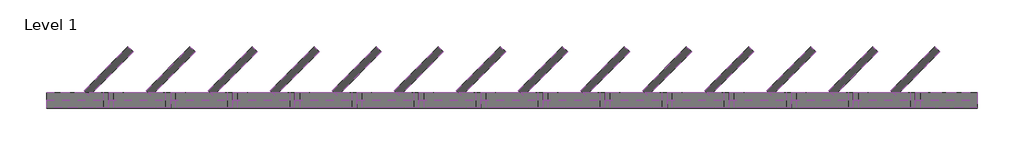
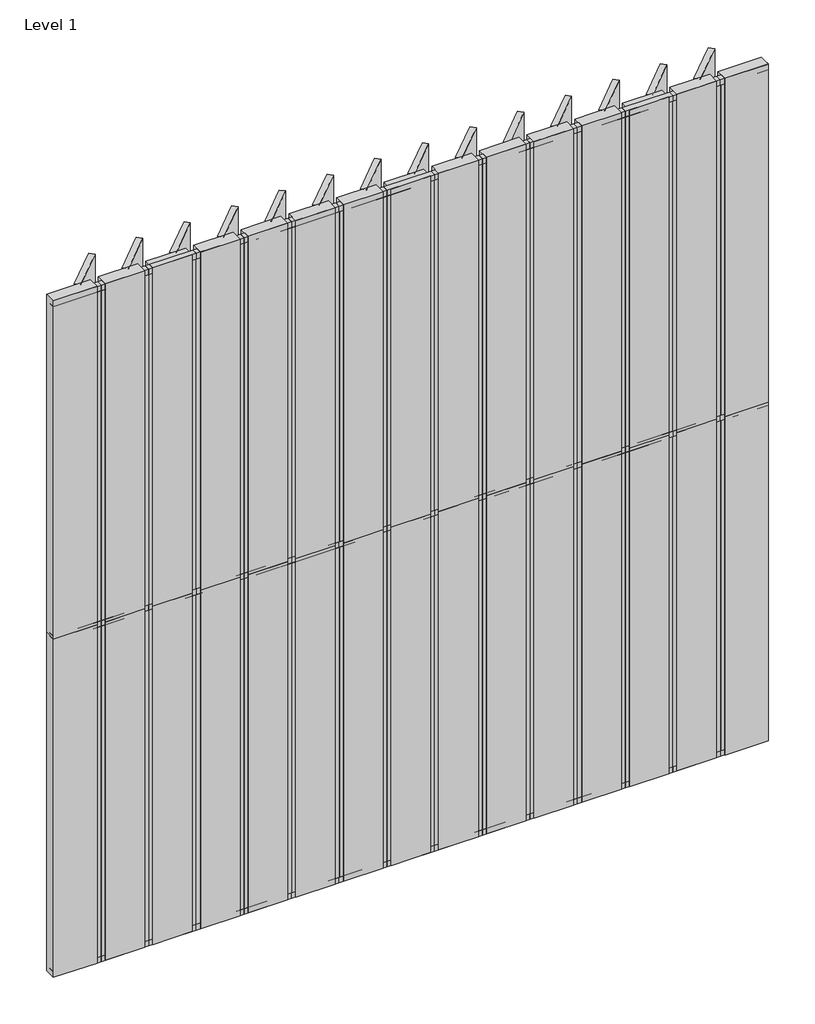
# One storey: 73 members, 60 plates.
"""IFC4 building model written with IfcOpenShell, lengths in millimetres."""

from ifc_helpers import new_model, si_unit, origin, place, context, project, spatial, transform, mapped, element, save
from components import rectangular_mullion_57607088, rectangular_mullion_05cc9e47, rectangular_mullion_4a4034a1, rectangular_mullion_3c6e38bc, empty_system_panel_empty_f4fe8983, empty_system_panel_empty_729ff3de, empty_system_panel_empty_361e841d

model = new_model("IFC4")

# Units and contexts
model_context = context("Model", 3, world=origin())
ifc_project = project(units=[si_unit("LENGTHUNIT", "METRE", prefix="MILLI")], contexts=[model_context])

# Site, building, storey
site = spatial("IfcSite", under=ifc_project)
building = spatial("IfcBuilding", under=site)
storey = spatial("IfcBuildingStorey", under=building, Name="Level 1", Elevation=0.0)

# Members
placement = place(None, origin())
rectangular_mullion_shape = rectangular_mullion_57607088(model_context)
element("IfcMember", 1, ObjectType="Rectangular Mullion : RSen_21_CWM_blade - cubic 400 - 45°_gen_duco projects", at=placement, inside=storey, context=model_context, shape_type="MappedRepresentation", body=[
    mapped(rectangular_mullion_shape, transform((5600.0, 3000.0, 0.0), x_axis=(-1.0, 0.0, 0.0), y_axis=(0.0, 1.0, 0.0), z_axis=(0.0, 0.0, -1.0))),
])
element("IfcMember", 2, ObjectType="Rectangular Mullion : RSen_21_CWM_blade - cubic 400 - 45°_gen_duco projects", at=placement, inside=storey, context=model_context, shape_type="MappedRepresentation", body=[
    mapped(rectangular_mullion_shape, transform((5200.0, 3000.0, 0.0), x_axis=(-1.0, 0.0, 0.0), y_axis=(0.0, 1.0, 0.0), z_axis=(0.0, 0.0, -1.0))),
])
element("IfcMember", 3, ObjectType="Rectangular Mullion : RSen_21_CWM_blade - cubic 400 - 45°_gen_duco projects", at=placement, inside=storey, context=model_context, shape_type="MappedRepresentation", body=[
    mapped(rectangular_mullion_shape, transform((4800.0, 3000.0, 0.0), x_axis=(-1.0, 0.0, 0.0), y_axis=(0.0, 1.0, 0.0), z_axis=(0.0, 0.0, -1.0))),
])
element("IfcMember", 4, ObjectType="Rectangular Mullion : RSen_21_CWM_blade - cubic 400 - 45°_gen_duco projects", at=placement, inside=storey, context=model_context, shape_type="MappedRepresentation", body=[
    mapped(rectangular_mullion_shape, transform((4400.0, 3000.0, 0.0), x_axis=(-1.0, 0.0, 0.0), y_axis=(0.0, 1.0, 0.0), z_axis=(0.0, 0.0, -1.0))),
])
element("IfcMember", 5, ObjectType="Rectangular Mullion : RSen_21_CWM_blade - cubic 400 - 45°_gen_duco projects", at=placement, inside=storey, context=model_context, shape_type="MappedRepresentation", body=[
    mapped(rectangular_mullion_shape, transform((4000.0, 3000.0, 0.0), x_axis=(-1.0, 0.0, 0.0), y_axis=(0.0, 1.0, 0.0), z_axis=(0.0, 0.0, -1.0))),
])
element("IfcMember", 6, ObjectType="Rectangular Mullion : RSen_21_CWM_blade - cubic 400 - 45°_gen_duco projects", at=placement, inside=storey, context=model_context, shape_type="MappedRepresentation", body=[
    mapped(rectangular_mullion_shape, transform((3600.0, 3000.0, 0.0), x_axis=(-1.0, 0.0, 0.0), y_axis=(0.0, 1.0, 0.0), z_axis=(0.0, 0.0, -1.0))),
])
element("IfcMember", 7, ObjectType="Rectangular Mullion : RSen_21_CWM_blade - cubic 400 - 45°_gen_duco projects", at=placement, inside=storey, context=model_context, shape_type="MappedRepresentation", body=[
    mapped(rectangular_mullion_shape, transform((3200.0, 3000.0, 0.0), x_axis=(-1.0, 0.0, 0.0), y_axis=(0.0, 1.0, 0.0), z_axis=(0.0, 0.0, -1.0))),
])
element("IfcMember", 8, ObjectType="Rectangular Mullion : RSen_21_CWM_blade - cubic 400 - 45°_gen_duco projects", at=placement, inside=storey, context=model_context, shape_type="MappedRepresentation", body=[
    mapped(rectangular_mullion_shape, transform((2800.0, 3000.0, 0.0), x_axis=(-1.0, 0.0, 0.0), y_axis=(0.0, 1.0, 0.0), z_axis=(0.0, 0.0, -1.0))),
])
element("IfcMember", 9, ObjectType="Rectangular Mullion : RSen_21_CWM_blade - cubic 400 - 45°_gen_duco projects", at=placement, inside=storey, context=model_context, shape_type="MappedRepresentation", body=[
    mapped(rectangular_mullion_shape, transform((2400.0, 3000.0, 0.0), x_axis=(-1.0, 0.0, 0.0), y_axis=(0.0, 1.0, 0.0), z_axis=(0.0, 0.0, -1.0))),
])
element("IfcMember", 10, ObjectType="Rectangular Mullion : RSen_21_CWM_blade - cubic 400 - 45°_gen_duco projects", at=placement, inside=storey, context=model_context, shape_type="MappedRepresentation", body=[
    mapped(rectangular_mullion_shape, transform((2000.0, 3000.0, 0.0), x_axis=(-1.0, 0.0, 0.0), y_axis=(0.0, 1.0, 0.0), z_axis=(0.0, 0.0, -1.0))),
])
element("IfcMember", 11, ObjectType="Rectangular Mullion : RSen_21_CWM_blade - cubic 400 - 45°_gen_duco projects", at=placement, inside=storey, context=model_context, shape_type="MappedRepresentation", body=[
    mapped(rectangular_mullion_shape, transform((1600.0, 3000.0, 0.0), x_axis=(-1.0, 0.0, 0.0), y_axis=(0.0, 1.0, 0.0), z_axis=(0.0, 0.0, -1.0))),
])
element("IfcMember", 12, ObjectType="Rectangular Mullion : RSen_21_CWM_blade - cubic 400 - 45°_gen_duco projects", at=placement, inside=storey, context=model_context, shape_type="MappedRepresentation", body=[
    mapped(rectangular_mullion_shape, transform((1200.0, 3000.0, 0.0), x_axis=(-1.0, 0.0, 0.0), y_axis=(0.0, 1.0, 0.0), z_axis=(0.0, 0.0, -1.0))),
])
element("IfcMember", 13, ObjectType="Rectangular Mullion : RSen_21_CWM_blade - cubic 400 - 45°_gen_duco projects", at=placement, inside=storey, context=model_context, shape_type="MappedRepresentation", body=[
    mapped(rectangular_mullion_shape, transform((800.0, 3000.0, 0.0), x_axis=(-1.0, 0.0, 0.0), y_axis=(0.0, 1.0, 0.0), z_axis=(0.0, 0.0, -1.0))),
])
element("IfcMember", 14, ObjectType="Rectangular Mullion : RSen_21_CWM_blade - cubic 400 - 45°_gen_duco projects", at=placement, inside=storey, context=model_context, shape_type="MappedRepresentation", body=[
    mapped(rectangular_mullion_shape, transform((400.0, 3000.0, 0.0), x_axis=(-1.0, 0.0, 0.0), y_axis=(0.0, 1.0, 0.0), z_axis=(0.0, 0.0, -1.0))),
])
element("IfcMember", 15, ObjectType="Rectangular Mullion : RSen_21_CWM_blade - cubic 400 - 45°_gen_duco projects", at=placement, inside=storey, context=model_context, shape_type="MappedRepresentation", body=[
    mapped(rectangular_mullion_shape, transform((5600.0, 3000.0, 3000.0), x_axis=(-1.0, 0.0, 0.0), y_axis=(0.0, 1.0, 0.0), z_axis=(0.0, 0.0, -1.0))),
])
element("IfcMember", 16, ObjectType="Rectangular Mullion : RSen_21_CWM_blade - cubic 400 - 45°_gen_duco projects", at=placement, inside=storey, context=model_context, shape_type="MappedRepresentation", body=[
    mapped(rectangular_mullion_shape, transform((5200.0, 3000.0, 3000.0), x_axis=(-1.0, 0.0, 0.0), y_axis=(0.0, 1.0, 0.0), z_axis=(0.0, 0.0, -1.0))),
])
element("IfcMember", 17, ObjectType="Rectangular Mullion : RSen_21_CWM_blade - cubic 400 - 45°_gen_duco projects", at=placement, inside=storey, context=model_context, shape_type="MappedRepresentation", body=[
    mapped(rectangular_mullion_shape, transform((4800.0, 3000.0, 3000.0), x_axis=(-1.0, 0.0, 0.0), y_axis=(0.0, 1.0, 0.0), z_axis=(0.0, 0.0, -1.0))),
])
element("IfcMember", 18, ObjectType="Rectangular Mullion : RSen_21_CWM_blade - cubic 400 - 45°_gen_duco projects", at=placement, inside=storey, context=model_context, shape_type="MappedRepresentation", body=[
    mapped(rectangular_mullion_shape, transform((4400.0, 3000.0, 3000.0), x_axis=(-1.0, 0.0, 0.0), y_axis=(0.0, 1.0, 0.0), z_axis=(0.0, 0.0, -1.0))),
])
element("IfcMember", 19, ObjectType="Rectangular Mullion : RSen_21_CWM_blade - cubic 400 - 45°_gen_duco projects", at=placement, inside=storey, context=model_context, shape_type="MappedRepresentation", body=[
    mapped(rectangular_mullion_shape, transform((4000.0, 3000.0, 3000.0), x_axis=(-1.0, 0.0, 0.0), y_axis=(0.0, 1.0, 0.0), z_axis=(0.0, 0.0, -1.0))),
])
element("IfcMember", 20, ObjectType="Rectangular Mullion : RSen_21_CWM_blade - cubic 400 - 45°_gen_duco projects", at=placement, inside=storey, context=model_context, shape_type="MappedRepresentation", body=[
    mapped(rectangular_mullion_shape, transform((3600.0, 3000.0, 3000.0), x_axis=(-1.0, 0.0, 0.0), y_axis=(0.0, 1.0, 0.0), z_axis=(0.0, 0.0, -1.0))),
])
element("IfcMember", 21, ObjectType="Rectangular Mullion : RSen_21_CWM_blade - cubic 400 - 45°_gen_duco projects", at=placement, inside=storey, context=model_context, shape_type="MappedRepresentation", body=[
    mapped(rectangular_mullion_shape, transform((3200.0, 3000.0, 3000.0), x_axis=(-1.0, 0.0, 0.0), y_axis=(0.0, 1.0, 0.0), z_axis=(0.0, 0.0, -1.0))),
])
element("IfcMember", 22, ObjectType="Rectangular Mullion : RSen_21_CWM_blade - cubic 400 - 45°_gen_duco projects", at=placement, inside=storey, context=model_context, shape_type="MappedRepresentation", body=[
    mapped(rectangular_mullion_shape, transform((2800.0, 3000.0, 3000.0), x_axis=(-1.0, 0.0, 0.0), y_axis=(0.0, 1.0, 0.0), z_axis=(0.0, 0.0, -1.0))),
])
element("IfcMember", 23, ObjectType="Rectangular Mullion : RSen_21_CWM_blade - cubic 400 - 45°_gen_duco projects", at=placement, inside=storey, context=model_context, shape_type="MappedRepresentation", body=[
    mapped(rectangular_mullion_shape, transform((2400.0, 3000.0, 3000.0), x_axis=(-1.0, 0.0, 0.0), y_axis=(0.0, 1.0, 0.0), z_axis=(0.0, 0.0, -1.0))),
])
element("IfcMember", 24, ObjectType="Rectangular Mullion : RSen_21_CWM_blade - cubic 400 - 45°_gen_duco projects", at=placement, inside=storey, context=model_context, shape_type="MappedRepresentation", body=[
    mapped(rectangular_mullion_shape, transform((2000.0, 3000.0, 3000.0), x_axis=(-1.0, 0.0, 0.0), y_axis=(0.0, 1.0, 0.0), z_axis=(0.0, 0.0, -1.0))),
])
element("IfcMember", 25, ObjectType="Rectangular Mullion : RSen_21_CWM_blade - cubic 400 - 45°_gen_duco projects", at=placement, inside=storey, context=model_context, shape_type="MappedRepresentation", body=[
    mapped(rectangular_mullion_shape, transform((1600.0, 3000.0, 3000.0), x_axis=(-1.0, 0.0, 0.0), y_axis=(0.0, 1.0, 0.0), z_axis=(0.0, 0.0, -1.0))),
])
element("IfcMember", 26, ObjectType="Rectangular Mullion : RSen_21_CWM_blade - cubic 400 - 45°_gen_duco projects", at=placement, inside=storey, context=model_context, shape_type="MappedRepresentation", body=[
    mapped(rectangular_mullion_shape, transform((1200.0, 3000.0, 3000.0), x_axis=(-1.0, 0.0, 0.0), y_axis=(0.0, 1.0, 0.0), z_axis=(0.0, 0.0, -1.0))),
])
element("IfcMember", 27, ObjectType="Rectangular Mullion : RSen_21_CWM_blade - cubic 400 - 45°_gen_duco projects", at=placement, inside=storey, context=model_context, shape_type="MappedRepresentation", body=[
    mapped(rectangular_mullion_shape, transform((800.0, 3000.0, 3000.0), x_axis=(-1.0, 0.0, 0.0), y_axis=(0.0, 1.0, 0.0), z_axis=(0.0, 0.0, -1.0))),
])
element("IfcMember", 28, ObjectType="Rectangular Mullion : RSen_21_CWM_blade - cubic 400 - 45°_gen_duco projects", at=placement, inside=storey, context=model_context, shape_type="MappedRepresentation", body=[
    mapped(rectangular_mullion_shape, transform((400.0, 3000.0, 3000.0), x_axis=(-1.0, 0.0, 0.0), y_axis=(0.0, 1.0, 0.0), z_axis=(0.0, 0.0, -1.0))),
])
rectangular_mullion_2_shape = rectangular_mullion_05cc9e47(model_context)
element("IfcMember", 29, ObjectType="Rectangular Mullion : RSen_21_CWM_support profile 50x50 - left_gen_duco projects", at=placement, inside=storey, context=model_context, shape_type="MappedRepresentation", body=[
    mapped(rectangular_mullion_2_shape, transform((0.0, 3000.0, 6000.0), x_axis=(0.0, 0.0, 1.0), y_axis=(0.0, 1.0, 0.0), z_axis=(-1.0, 0.0, 0.0))),
])
rectangular_mullion_3_shape = rectangular_mullion_4a4034a1(model_context)
element("IfcMember", 30, ObjectType="Rectangular Mullion : RSen_21_CWM_support profile 50x50 - right_gen_duco projects", at=placement, inside=storey, context=model_context, shape_type="MappedRepresentation", body=[
    mapped(rectangular_mullion_3_shape, transform((6000.0, 3000.0, 0.0), x_axis=(0.0, 0.0, -1.0), y_axis=(0.0, 1.0, 0.0), z_axis=(1.0, 0.0, 0.0))),
])
element("IfcMember", 31, ObjectType="Rectangular Mullion : RSen_21_CWM_support profile 50x50 - left_gen_duco projects", at=placement, inside=storey, context=model_context, shape_type="MappedRepresentation", body=[
    mapped(rectangular_mullion_2_shape, transform((5600.0, 3000.0, 6000.0), x_axis=(0.0, 0.0, 1.0), y_axis=(0.0, 1.0, 0.0), z_axis=(-1.0, 0.0, 0.0))),
])
element("IfcMember", 32, ObjectType="Rectangular Mullion : RSen_21_CWM_support profile 50x50 - left_gen_duco projects", at=placement, inside=storey, context=model_context, shape_type="MappedRepresentation", body=[
    mapped(rectangular_mullion_2_shape, transform((5200.0, 3000.0, 6000.0), x_axis=(0.0, 0.0, 1.0), y_axis=(0.0, 1.0, 0.0), z_axis=(-1.0, 0.0, 0.0))),
])
element("IfcMember", 33, ObjectType="Rectangular Mullion : RSen_21_CWM_support profile 50x50 - left_gen_duco projects", at=placement, inside=storey, context=model_context, shape_type="MappedRepresentation", body=[
    mapped(rectangular_mullion_2_shape, transform((4800.0, 3000.0, 6000.0), x_axis=(0.0, 0.0, 1.0), y_axis=(0.0, 1.0, 0.0), z_axis=(-1.0, 0.0, 0.0))),
])
element("IfcMember", 34, ObjectType="Rectangular Mullion : RSen_21_CWM_support profile 50x50 - left_gen_duco projects", at=placement, inside=storey, context=model_context, shape_type="MappedRepresentation", body=[
    mapped(rectangular_mullion_2_shape, transform((4400.0, 3000.0, 6000.0), x_axis=(0.0, 0.0, 1.0), y_axis=(0.0, 1.0, 0.0), z_axis=(-1.0, 0.0, 0.0))),
])
element("IfcMember", 35, ObjectType="Rectangular Mullion : RSen_21_CWM_support profile 50x50 - left_gen_duco projects", at=placement, inside=storey, context=model_context, shape_type="MappedRepresentation", body=[
    mapped(rectangular_mullion_2_shape, transform((4000.0, 3000.0, 6000.0), x_axis=(0.0, 0.0, 1.0), y_axis=(0.0, 1.0, 0.0), z_axis=(-1.0, 0.0, 0.0))),
])
element("IfcMember", 36, ObjectType="Rectangular Mullion : RSen_21_CWM_support profile 50x50 - left_gen_duco projects", at=placement, inside=storey, context=model_context, shape_type="MappedRepresentation", body=[
    mapped(rectangular_mullion_2_shape, transform((3600.0, 3000.0, 6000.0), x_axis=(0.0, 0.0, 1.0), y_axis=(0.0, 1.0, 0.0), z_axis=(-1.0, 0.0, 0.0))),
])
element("IfcMember", 37, ObjectType="Rectangular Mullion : RSen_21_CWM_support profile 50x50 - left_gen_duco projects", at=placement, inside=storey, context=model_context, shape_type="MappedRepresentation", body=[
    mapped(rectangular_mullion_2_shape, transform((3200.0, 3000.0, 6000.0), x_axis=(0.0, 0.0, 1.0), y_axis=(0.0, 1.0, 0.0), z_axis=(-1.0, 0.0, 0.0))),
])
element("IfcMember", 38, ObjectType="Rectangular Mullion : RSen_21_CWM_support profile 50x50 - left_gen_duco projects", at=placement, inside=storey, context=model_context, shape_type="MappedRepresentation", body=[
    mapped(rectangular_mullion_2_shape, transform((2800.0, 3000.0, 6000.0), x_axis=(0.0, 0.0, 1.0), y_axis=(0.0, 1.0, 0.0), z_axis=(-1.0, 0.0, 0.0))),
])
element("IfcMember", 39, ObjectType="Rectangular Mullion : RSen_21_CWM_support profile 50x50 - left_gen_duco projects", at=placement, inside=storey, context=model_context, shape_type="MappedRepresentation", body=[
    mapped(rectangular_mullion_2_shape, transform((2400.0, 3000.0, 6000.0), x_axis=(0.0, 0.0, 1.0), y_axis=(0.0, 1.0, 0.0), z_axis=(-1.0, 0.0, 0.0))),
])
element("IfcMember", 40, ObjectType="Rectangular Mullion : RSen_21_CWM_support profile 50x50 - left_gen_duco projects", at=placement, inside=storey, context=model_context, shape_type="MappedRepresentation", body=[
    mapped(rectangular_mullion_2_shape, transform((2000.0, 3000.0, 6000.0), x_axis=(0.0, 0.0, 1.0), y_axis=(0.0, 1.0, 0.0), z_axis=(-1.0, 0.0, 0.0))),
])
element("IfcMember", 41, ObjectType="Rectangular Mullion : RSen_21_CWM_support profile 50x50 - left_gen_duco projects", at=placement, inside=storey, context=model_context, shape_type="MappedRepresentation", body=[
    mapped(rectangular_mullion_2_shape, transform((1600.0, 3000.0, 6000.0), x_axis=(0.0, 0.0, 1.0), y_axis=(0.0, 1.0, 0.0), z_axis=(-1.0, 0.0, 0.0))),
])
element("IfcMember", 42, ObjectType="Rectangular Mullion : RSen_21_CWM_support profile 50x50 - left_gen_duco projects", at=placement, inside=storey, context=model_context, shape_type="MappedRepresentation", body=[
    mapped(rectangular_mullion_2_shape, transform((1200.0, 3000.0, 6000.0), x_axis=(0.0, 0.0, 1.0), y_axis=(0.0, 1.0, 0.0), z_axis=(-1.0, 0.0, 0.0))),
])
element("IfcMember", 43, ObjectType="Rectangular Mullion : RSen_21_CWM_support profile 50x50 - left_gen_duco projects", at=placement, inside=storey, context=model_context, shape_type="MappedRepresentation", body=[
    mapped(rectangular_mullion_2_shape, transform((800.0, 3000.0, 6000.0), x_axis=(0.0, 0.0, 1.0), y_axis=(0.0, 1.0, 0.0), z_axis=(-1.0, 0.0, 0.0))),
])
element("IfcMember", 44, ObjectType="Rectangular Mullion : RSen_21_CWM_support profile 50x50 - left_gen_duco projects", at=placement, inside=storey, context=model_context, shape_type="MappedRepresentation", body=[
    mapped(rectangular_mullion_2_shape, transform((400.0, 3000.0, 6000.0), x_axis=(0.0, 0.0, 1.0), y_axis=(0.0, 1.0, 0.0), z_axis=(-1.0, 0.0, 0.0))),
])
element("IfcMember", 45, ObjectType="Rectangular Mullion : RSen_21_CWM_support profile 50x50 - right_gen_duco projects", at=placement, inside=storey, context=model_context, shape_type="MappedRepresentation", body=[
    mapped(rectangular_mullion_3_shape, transform((5600.0, 3000.0, 0.0), x_axis=(0.0, 0.0, -1.0), y_axis=(0.0, 1.0, 0.0), z_axis=(1.0, 0.0, 0.0))),
])
element("IfcMember", 46, ObjectType="Rectangular Mullion : RSen_21_CWM_support profile 50x50 - right_gen_duco projects", at=placement, inside=storey, context=model_context, shape_type="MappedRepresentation", body=[
    mapped(rectangular_mullion_3_shape, transform((5200.0, 3000.0, 0.0), x_axis=(0.0, 0.0, -1.0), y_axis=(0.0, 1.0, 0.0), z_axis=(1.0, 0.0, 0.0))),
])
element("IfcMember", 47, ObjectType="Rectangular Mullion : RSen_21_CWM_support profile 50x50 - right_gen_duco projects", at=placement, inside=storey, context=model_context, shape_type="MappedRepresentation", body=[
    mapped(rectangular_mullion_3_shape, transform((4800.0, 3000.0, 0.0), x_axis=(0.0, 0.0, -1.0), y_axis=(0.0, 1.0, 0.0), z_axis=(1.0, 0.0, 0.0))),
])
element("IfcMember", 48, ObjectType="Rectangular Mullion : RSen_21_CWM_support profile 50x50 - right_gen_duco projects", at=placement, inside=storey, context=model_context, shape_type="MappedRepresentation", body=[
    mapped(rectangular_mullion_3_shape, transform((4400.0, 3000.0, 0.0), x_axis=(0.0, 0.0, -1.0), y_axis=(0.0, 1.0, 0.0), z_axis=(1.0, 0.0, 0.0))),
])
element("IfcMember", 49, ObjectType="Rectangular Mullion : RSen_21_CWM_support profile 50x50 - right_gen_duco projects", at=placement, inside=storey, context=model_context, shape_type="MappedRepresentation", body=[
    mapped(rectangular_mullion_3_shape, transform((4000.0, 3000.0, 0.0), x_axis=(0.0, 0.0, -1.0), y_axis=(0.0, 1.0, 0.0), z_axis=(1.0, 0.0, 0.0))),
])
element("IfcMember", 50, ObjectType="Rectangular Mullion : RSen_21_CWM_support profile 50x50 - right_gen_duco projects", at=placement, inside=storey, context=model_context, shape_type="MappedRepresentation", body=[
    mapped(rectangular_mullion_3_shape, transform((3600.0, 3000.0, 0.0), x_axis=(0.0, 0.0, -1.0), y_axis=(0.0, 1.0, 0.0), z_axis=(1.0, 0.0, 0.0))),
])
element("IfcMember", 51, ObjectType="Rectangular Mullion : RSen_21_CWM_support profile 50x50 - right_gen_duco projects", at=placement, inside=storey, context=model_context, shape_type="MappedRepresentation", body=[
    mapped(rectangular_mullion_3_shape, transform((3200.0, 3000.0, 0.0), x_axis=(0.0, 0.0, -1.0), y_axis=(0.0, 1.0, 0.0), z_axis=(1.0, 0.0, 0.0))),
])
element("IfcMember", 52, ObjectType="Rectangular Mullion : RSen_21_CWM_support profile 50x50 - right_gen_duco projects", at=placement, inside=storey, context=model_context, shape_type="MappedRepresentation", body=[
    mapped(rectangular_mullion_3_shape, transform((2800.0, 3000.0, 0.0), x_axis=(0.0, 0.0, -1.0), y_axis=(0.0, 1.0, 0.0), z_axis=(1.0, 0.0, 0.0))),
])
element("IfcMember", 53, ObjectType="Rectangular Mullion : RSen_21_CWM_support profile 50x50 - right_gen_duco projects", at=placement, inside=storey, context=model_context, shape_type="MappedRepresentation", body=[
    mapped(rectangular_mullion_3_shape, transform((2400.0, 3000.0, 0.0), x_axis=(0.0, 0.0, -1.0), y_axis=(0.0, 1.0, 0.0), z_axis=(1.0, 0.0, 0.0))),
])
element("IfcMember", 54, ObjectType="Rectangular Mullion : RSen_21_CWM_support profile 50x50 - right_gen_duco projects", at=placement, inside=storey, context=model_context, shape_type="MappedRepresentation", body=[
    mapped(rectangular_mullion_3_shape, transform((2000.0, 3000.0, 0.0), x_axis=(0.0, 0.0, -1.0), y_axis=(0.0, 1.0, 0.0), z_axis=(1.0, 0.0, 0.0))),
])
element("IfcMember", 55, ObjectType="Rectangular Mullion : RSen_21_CWM_support profile 50x50 - right_gen_duco projects", at=placement, inside=storey, context=model_context, shape_type="MappedRepresentation", body=[
    mapped(rectangular_mullion_3_shape, transform((1600.0, 3000.0, 0.0), x_axis=(0.0, 0.0, -1.0), y_axis=(0.0, 1.0, 0.0), z_axis=(1.0, 0.0, 0.0))),
])
element("IfcMember", 56, ObjectType="Rectangular Mullion : RSen_21_CWM_support profile 50x50 - right_gen_duco projects", at=placement, inside=storey, context=model_context, shape_type="MappedRepresentation", body=[
    mapped(rectangular_mullion_3_shape, transform((1200.0, 3000.0, 0.0), x_axis=(0.0, 0.0, -1.0), y_axis=(0.0, 1.0, 0.0), z_axis=(1.0, 0.0, 0.0))),
])
element("IfcMember", 57, ObjectType="Rectangular Mullion : RSen_21_CWM_support profile 50x50 - right_gen_duco projects", at=placement, inside=storey, context=model_context, shape_type="MappedRepresentation", body=[
    mapped(rectangular_mullion_3_shape, transform((800.0, 3000.0, 0.0), x_axis=(0.0, 0.0, -1.0), y_axis=(0.0, 1.0, 0.0), z_axis=(1.0, 0.0, 0.0))),
])
element("IfcMember", 58, ObjectType="Rectangular Mullion : RSen_21_CWM_support profile 50x50 - right_gen_duco projects", at=placement, inside=storey, context=model_context, shape_type="MappedRepresentation", body=[
    mapped(rectangular_mullion_3_shape, transform((400.0, 3000.0, 0.0), x_axis=(0.0, 0.0, -1.0), y_axis=(0.0, 1.0, 0.0), z_axis=(1.0, 0.0, 0.0))),
])
rectangular_mullion_4_shape = rectangular_mullion_3c6e38bc(model_context)
element("IfcMember", 59, ObjectType="Rectangular Mullion : RSen_21_CWM_support profile 50x50_gen_duco projects", at=placement, inside=storey, context=model_context, shape_type="MappedRepresentation", body=[
    mapped(rectangular_mullion_4_shape, transform((5600.0, 3000.0, 3000.0), x_axis=(0.0, 0.0, 1.0), y_axis=(0.0, 1.0, 0.0), z_axis=(-1.0, 0.0, 0.0))),
])
element("IfcMember", 60, ObjectType="Rectangular Mullion : RSen_21_CWM_support profile 50x50_gen_duco projects", at=placement, inside=storey, context=model_context, shape_type="MappedRepresentation", body=[
    mapped(rectangular_mullion_4_shape, transform((5200.0, 3000.0, 3000.0), x_axis=(0.0, 0.0, 1.0), y_axis=(0.0, 1.0, 0.0), z_axis=(-1.0, 0.0, 0.0))),
])
element("IfcMember", 61, ObjectType="Rectangular Mullion : RSen_21_CWM_support profile 50x50_gen_duco projects", at=placement, inside=storey, context=model_context, shape_type="MappedRepresentation", body=[
    mapped(rectangular_mullion_4_shape, transform((4800.0, 3000.0, 3000.0), x_axis=(0.0, 0.0, 1.0), y_axis=(0.0, 1.0, 0.0), z_axis=(-1.0, 0.0, 0.0))),
])
element("IfcMember", 62, ObjectType="Rectangular Mullion : RSen_21_CWM_support profile 50x50_gen_duco projects", at=placement, inside=storey, context=model_context, shape_type="MappedRepresentation", body=[
    mapped(rectangular_mullion_4_shape, transform((4400.0, 3000.0, 3000.0), x_axis=(0.0, 0.0, 1.0), y_axis=(0.0, 1.0, 0.0), z_axis=(-1.0, 0.0, 0.0))),
])
element("IfcMember", 63, ObjectType="Rectangular Mullion : RSen_21_CWM_support profile 50x50_gen_duco projects", at=placement, inside=storey, context=model_context, shape_type="MappedRepresentation", body=[
    mapped(rectangular_mullion_4_shape, transform((4000.0, 3000.0, 3000.0), x_axis=(0.0, 0.0, 1.0), y_axis=(0.0, 1.0, 0.0), z_axis=(-1.0, 0.0, 0.0))),
])
element("IfcMember", 64, ObjectType="Rectangular Mullion : RSen_21_CWM_support profile 50x50_gen_duco projects", at=placement, inside=storey, context=model_context, shape_type="MappedRepresentation", body=[
    mapped(rectangular_mullion_4_shape, transform((3600.0, 3000.0, 3000.0), x_axis=(0.0, 0.0, 1.0), y_axis=(0.0, 1.0, 0.0), z_axis=(-1.0, 0.0, 0.0))),
])
element("IfcMember", 65, ObjectType="Rectangular Mullion : RSen_21_CWM_support profile 50x50_gen_duco projects", at=placement, inside=storey, context=model_context, shape_type="MappedRepresentation", body=[
    mapped(rectangular_mullion_4_shape, transform((3200.0, 3000.0, 3000.0), x_axis=(0.0, 0.0, 1.0), y_axis=(0.0, 1.0, 0.0), z_axis=(-1.0, 0.0, 0.0))),
])
element("IfcMember", 66, ObjectType="Rectangular Mullion : RSen_21_CWM_support profile 50x50_gen_duco projects", at=placement, inside=storey, context=model_context, shape_type="MappedRepresentation", body=[
    mapped(rectangular_mullion_4_shape, transform((2800.0, 3000.0, 3000.0), x_axis=(0.0, 0.0, 1.0), y_axis=(0.0, 1.0, 0.0), z_axis=(-1.0, 0.0, 0.0))),
])
element("IfcMember", 67, ObjectType="Rectangular Mullion : RSen_21_CWM_support profile 50x50_gen_duco projects", at=placement, inside=storey, context=model_context, shape_type="MappedRepresentation", body=[
    mapped(rectangular_mullion_4_shape, transform((2400.0, 3000.0, 3000.0), x_axis=(0.0, 0.0, 1.0), y_axis=(0.0, 1.0, 0.0), z_axis=(-1.0, 0.0, 0.0))),
])
element("IfcMember", 68, ObjectType="Rectangular Mullion : RSen_21_CWM_support profile 50x50_gen_duco projects", at=placement, inside=storey, context=model_context, shape_type="MappedRepresentation", body=[
    mapped(rectangular_mullion_4_shape, transform((2000.0, 3000.0, 3000.0), x_axis=(0.0, 0.0, 1.0), y_axis=(0.0, 1.0, 0.0), z_axis=(-1.0, 0.0, 0.0))),
])
element("IfcMember", 69, ObjectType="Rectangular Mullion : RSen_21_CWM_support profile 50x50_gen_duco projects", at=placement, inside=storey, context=model_context, shape_type="MappedRepresentation", body=[
    mapped(rectangular_mullion_4_shape, transform((1600.0, 3000.0, 3000.0), x_axis=(0.0, 0.0, 1.0), y_axis=(0.0, 1.0, 0.0), z_axis=(-1.0, 0.0, 0.0))),
])
element("IfcMember", 70, ObjectType="Rectangular Mullion : RSen_21_CWM_support profile 50x50_gen_duco projects", at=placement, inside=storey, context=model_context, shape_type="MappedRepresentation", body=[
    mapped(rectangular_mullion_4_shape, transform((1200.0, 3000.0, 3000.0), x_axis=(0.0, 0.0, 1.0), y_axis=(0.0, 1.0, 0.0), z_axis=(-1.0, 0.0, 0.0))),
])
element("IfcMember", 71, ObjectType="Rectangular Mullion : RSen_21_CWM_support profile 50x50_gen_duco projects", at=placement, inside=storey, context=model_context, shape_type="MappedRepresentation", body=[
    mapped(rectangular_mullion_4_shape, transform((800.0, 3000.0, 3000.0), x_axis=(0.0, 0.0, 1.0), y_axis=(0.0, 1.0, 0.0), z_axis=(-1.0, 0.0, 0.0))),
])
element("IfcMember", 72, ObjectType="Rectangular Mullion : RSen_21_CWM_support profile 50x50_gen_duco projects", at=placement, inside=storey, context=model_context, shape_type="MappedRepresentation", body=[
    mapped(rectangular_mullion_4_shape, transform((400.0, 3000.0, 3000.0), x_axis=(0.0, 0.0, 1.0), y_axis=(0.0, 1.0, 0.0), z_axis=(-1.0, 0.0, 0.0))),
])
element("IfcMember", 73, ObjectType="Rectangular Mullion : RSen_21_CWM_support profile 50x50_gen_duco projects", at=placement, inside=storey, context=model_context, shape_type="MappedRepresentation", body=[
    mapped(rectangular_mullion_4_shape, transform((0.0, 3000.0, 3000.0), x_axis=(0.0, 0.0, 1.0), y_axis=(0.0, 1.0, 0.0), z_axis=(-1.0, 0.0, 0.0))),
])

# Plates
empty_system_panel_empty_shape = empty_system_panel_empty_f4fe8983(model_context)
element("IfcPlate", 74, ObjectType="Empty System Panel : Empty", at=placement, inside=storey, context=model_context, shape_type="MappedRepresentation", body=[
    mapped(empty_system_panel_empty_shape, transform((5816.9705627, 3000.0, 0.0), x_axis=(-1.0, 0.0, 0.0), y_axis=(0.0, -1.0, 0.0), z_axis=(0.0, 0.0, 1.0))),
])
element("IfcPlate", 75, ObjectType="Empty System Panel : Empty", at=placement, inside=storey, context=model_context, shape_type="MappedRepresentation", body=[
    mapped(empty_system_panel_empty_shape, transform((183.0294373, 3000.0, 0.0), x_axis=(-1.0, 0.0, 0.0), y_axis=(0.0, -1.0, 0.0), z_axis=(0.0, 0.0, 1.0))),
])
element("IfcPlate", 76, ObjectType="Empty System Panel : Empty", at=placement, inside=storey, context=model_context, shape_type="MappedRepresentation", body=[
    mapped(empty_system_panel_empty_shape, transform((5816.9705627, 3000.0, 3000.0), x_axis=(-1.0, 0.0, 0.0), y_axis=(0.0, -1.0, 0.0), z_axis=(0.0, 0.0, 1.0))),
])
element("IfcPlate", 77, ObjectType="Empty System Panel : Empty", at=placement, inside=storey, context=model_context, shape_type="MappedRepresentation", body=[
    mapped(empty_system_panel_empty_shape, transform((183.0294373, 3000.0, 3000.0), x_axis=(-1.0, 0.0, 0.0), y_axis=(0.0, -1.0, 0.0), z_axis=(0.0, 0.0, 1.0))),
])
empty_system_panel_empty_2_shape = empty_system_panel_empty_729ff3de(model_context)
element("IfcPlate", 78, ObjectType="Empty System Panel : Empty", at=placement, inside=storey, context=model_context, shape_type="MappedRepresentation", body=[
    mapped(empty_system_panel_empty_2_shape, transform((5400.0, 3000.0, 0.0), x_axis=(-1.0, 0.0, 0.0), y_axis=(0.0, -1.0, 0.0), z_axis=(0.0, 0.0, 1.0))),
])
element("IfcPlate", 79, ObjectType="Empty System Panel : Empty", at=placement, inside=storey, context=model_context, shape_type="MappedRepresentation", body=[
    mapped(empty_system_panel_empty_2_shape, transform((5000.0, 3000.0, 0.0), x_axis=(-1.0, 0.0, 0.0), y_axis=(0.0, -1.0, 0.0), z_axis=(0.0, 0.0, 1.0))),
])
element("IfcPlate", 80, ObjectType="Empty System Panel : Empty", at=placement, inside=storey, context=model_context, shape_type="MappedRepresentation", body=[
    mapped(empty_system_panel_empty_2_shape, transform((4600.0, 3000.0, 0.0), x_axis=(-1.0, 0.0, 0.0), y_axis=(0.0, -1.0, 0.0), z_axis=(0.0, 0.0, 1.0))),
])
element("IfcPlate", 81, ObjectType="Empty System Panel : Empty", at=placement, inside=storey, context=model_context, shape_type="MappedRepresentation", body=[
    mapped(empty_system_panel_empty_2_shape, transform((4200.0, 3000.0, 0.0), x_axis=(-1.0, 0.0, 0.0), y_axis=(0.0, -1.0, 0.0), z_axis=(0.0, 0.0, 1.0))),
])
element("IfcPlate", 82, ObjectType="Empty System Panel : Empty", at=placement, inside=storey, context=model_context, shape_type="MappedRepresentation", body=[
    mapped(empty_system_panel_empty_2_shape, transform((3800.0, 3000.0, 0.0), x_axis=(-1.0, 0.0, 0.0), y_axis=(0.0, -1.0, 0.0), z_axis=(0.0, 0.0, 1.0))),
])
element("IfcPlate", 83, ObjectType="Empty System Panel : Empty", at=placement, inside=storey, context=model_context, shape_type="MappedRepresentation", body=[
    mapped(empty_system_panel_empty_2_shape, transform((3400.0, 3000.0, 0.0), x_axis=(-1.0, 0.0, 0.0), y_axis=(0.0, -1.0, 0.0), z_axis=(0.0, 0.0, 1.0))),
])
element("IfcPlate", 84, ObjectType="Empty System Panel : Empty", at=placement, inside=storey, context=model_context, shape_type="MappedRepresentation", body=[
    mapped(empty_system_panel_empty_2_shape, transform((3000.0, 3000.0, 0.0), x_axis=(-1.0, 0.0, 0.0), y_axis=(0.0, -1.0, 0.0), z_axis=(0.0, 0.0, 1.0))),
])
element("IfcPlate", 85, ObjectType="Empty System Panel : Empty", at=placement, inside=storey, context=model_context, shape_type="MappedRepresentation", body=[
    mapped(empty_system_panel_empty_2_shape, transform((2600.0, 3000.0, 0.0), x_axis=(-1.0, 0.0, 0.0), y_axis=(0.0, -1.0, 0.0), z_axis=(0.0, 0.0, 1.0))),
])
element("IfcPlate", 86, ObjectType="Empty System Panel : Empty", at=placement, inside=storey, context=model_context, shape_type="MappedRepresentation", body=[
    mapped(empty_system_panel_empty_2_shape, transform((2200.0, 3000.0, 0.0), x_axis=(-1.0, 0.0, 0.0), y_axis=(0.0, -1.0, 0.0), z_axis=(0.0, 0.0, 1.0))),
])
element("IfcPlate", 87, ObjectType="Empty System Panel : Empty", at=placement, inside=storey, context=model_context, shape_type="MappedRepresentation", body=[
    mapped(empty_system_panel_empty_2_shape, transform((1800.0, 3000.0, 0.0), x_axis=(-1.0, 0.0, 0.0), y_axis=(0.0, -1.0, 0.0), z_axis=(0.0, 0.0, 1.0))),
])
element("IfcPlate", 88, ObjectType="Empty System Panel : Empty", at=placement, inside=storey, context=model_context, shape_type="MappedRepresentation", body=[
    mapped(empty_system_panel_empty_2_shape, transform((1400.0, 3000.0, 0.0), x_axis=(-1.0, 0.0, 0.0), y_axis=(0.0, -1.0, 0.0), z_axis=(0.0, 0.0, 1.0))),
])
element("IfcPlate", 89, ObjectType="Empty System Panel : Empty", at=placement, inside=storey, context=model_context, shape_type="MappedRepresentation", body=[
    mapped(empty_system_panel_empty_2_shape, transform((1000.0, 3000.0, 0.0), x_axis=(-1.0, 0.0, 0.0), y_axis=(0.0, -1.0, 0.0), z_axis=(0.0, 0.0, 1.0))),
])
element("IfcPlate", 90, ObjectType="Empty System Panel : Empty", at=placement, inside=storey, context=model_context, shape_type="MappedRepresentation", body=[
    mapped(empty_system_panel_empty_2_shape, transform((600.0, 3000.0, 0.0), x_axis=(-1.0, 0.0, 0.0), y_axis=(0.0, -1.0, 0.0), z_axis=(0.0, 0.0, 1.0))),
])
element("IfcPlate", 91, ObjectType="Empty System Panel : Empty", at=placement, inside=storey, context=model_context, shape_type="MappedRepresentation", body=[
    mapped(empty_system_panel_empty_2_shape, transform((5400.0, 3000.0, 3000.0), x_axis=(-1.0, 0.0, 0.0), y_axis=(0.0, -1.0, 0.0), z_axis=(0.0, 0.0, 1.0))),
])
element("IfcPlate", 92, ObjectType="Empty System Panel : Empty", at=placement, inside=storey, context=model_context, shape_type="MappedRepresentation", body=[
    mapped(empty_system_panel_empty_2_shape, transform((5000.0, 3000.0, 3000.0), x_axis=(-1.0, 0.0, 0.0), y_axis=(0.0, -1.0, 0.0), z_axis=(0.0, 0.0, 1.0))),
])
element("IfcPlate", 93, ObjectType="Empty System Panel : Empty", at=placement, inside=storey, context=model_context, shape_type="MappedRepresentation", body=[
    mapped(empty_system_panel_empty_2_shape, transform((4600.0, 3000.0, 3000.0), x_axis=(-1.0, 0.0, 0.0), y_axis=(0.0, -1.0, 0.0), z_axis=(0.0, 0.0, 1.0))),
])
element("IfcPlate", 94, ObjectType="Empty System Panel : Empty", at=placement, inside=storey, context=model_context, shape_type="MappedRepresentation", body=[
    mapped(empty_system_panel_empty_2_shape, transform((4200.0, 3000.0, 3000.0), x_axis=(-1.0, 0.0, 0.0), y_axis=(0.0, -1.0, 0.0), z_axis=(0.0, 0.0, 1.0))),
])
element("IfcPlate", 95, ObjectType="Empty System Panel : Empty", at=placement, inside=storey, context=model_context, shape_type="MappedRepresentation", body=[
    mapped(empty_system_panel_empty_2_shape, transform((3800.0, 3000.0, 3000.0), x_axis=(-1.0, 0.0, 0.0), y_axis=(0.0, -1.0, 0.0), z_axis=(0.0, 0.0, 1.0))),
])
element("IfcPlate", 96, ObjectType="Empty System Panel : Empty", at=placement, inside=storey, context=model_context, shape_type="MappedRepresentation", body=[
    mapped(empty_system_panel_empty_2_shape, transform((3400.0, 3000.0, 3000.0), x_axis=(-1.0, 0.0, 0.0), y_axis=(0.0, -1.0, 0.0), z_axis=(0.0, 0.0, 1.0))),
])
element("IfcPlate", 97, ObjectType="Empty System Panel : Empty", at=placement, inside=storey, context=model_context, shape_type="MappedRepresentation", body=[
    mapped(empty_system_panel_empty_2_shape, transform((3000.0, 3000.0, 3000.0), x_axis=(-1.0, 0.0, 0.0), y_axis=(0.0, -1.0, 0.0), z_axis=(0.0, 0.0, 1.0))),
])
element("IfcPlate", 98, ObjectType="Empty System Panel : Empty", at=placement, inside=storey, context=model_context, shape_type="MappedRepresentation", body=[
    mapped(empty_system_panel_empty_2_shape, transform((2600.0, 3000.0, 3000.0), x_axis=(-1.0, 0.0, 0.0), y_axis=(0.0, -1.0, 0.0), z_axis=(0.0, 0.0, 1.0))),
])
element("IfcPlate", 99, ObjectType="Empty System Panel : Empty", at=placement, inside=storey, context=model_context, shape_type="MappedRepresentation", body=[
    mapped(empty_system_panel_empty_2_shape, transform((2200.0, 3000.0, 3000.0), x_axis=(-1.0, 0.0, 0.0), y_axis=(0.0, -1.0, 0.0), z_axis=(0.0, 0.0, 1.0))),
])
element("IfcPlate", 100, ObjectType="Empty System Panel : Empty", at=placement, inside=storey, context=model_context, shape_type="MappedRepresentation", body=[
    mapped(empty_system_panel_empty_2_shape, transform((1800.0, 3000.0, 3000.0), x_axis=(-1.0, 0.0, 0.0), y_axis=(0.0, -1.0, 0.0), z_axis=(0.0, 0.0, 1.0))),
])
element("IfcPlate", 101, ObjectType="Empty System Panel : Empty", at=placement, inside=storey, context=model_context, shape_type="MappedRepresentation", body=[
    mapped(empty_system_panel_empty_2_shape, transform((1400.0, 3000.0, 3000.0), x_axis=(-1.0, 0.0, 0.0), y_axis=(0.0, -1.0, 0.0), z_axis=(0.0, 0.0, 1.0))),
])
element("IfcPlate", 102, ObjectType="Empty System Panel : Empty", at=placement, inside=storey, context=model_context, shape_type="MappedRepresentation", body=[
    mapped(empty_system_panel_empty_2_shape, transform((1000.0, 3000.0, 3000.0), x_axis=(-1.0, 0.0, 0.0), y_axis=(0.0, -1.0, 0.0), z_axis=(0.0, 0.0, 1.0))),
])
element("IfcPlate", 103, ObjectType="Empty System Panel : Empty", at=placement, inside=storey, context=model_context, shape_type="MappedRepresentation", body=[
    mapped(empty_system_panel_empty_2_shape, transform((600.0, 3000.0, 3000.0), x_axis=(-1.0, 0.0, 0.0), y_axis=(0.0, -1.0, 0.0), z_axis=(0.0, 0.0, 1.0))),
])
empty_system_panel_empty_3_shape = empty_system_panel_empty_361e841d(model_context)
element("IfcPlate", 104, ObjectType="Empty System Panel : Empty", at=placement, inside=storey, context=model_context, shape_type="MappedRepresentation", body=[
    mapped(empty_system_panel_empty_3_shape, transform((5800.0, 3000.0, 50.0), x_axis=(-1.0, 0.0, 0.0), y_axis=(0.0, -1.0, 0.0), z_axis=(0.0, 0.0, 1.0))),
])
element("IfcPlate", 105, ObjectType="Empty System Panel : Empty", at=placement, inside=storey, context=model_context, shape_type="MappedRepresentation", body=[
    mapped(empty_system_panel_empty_3_shape, transform((5400.0, 3000.0, 50.0), x_axis=(-1.0, 0.0, 0.0), y_axis=(0.0, -1.0, 0.0), z_axis=(0.0, 0.0, 1.0))),
])
element("IfcPlate", 106, ObjectType="Empty System Panel : Empty", at=placement, inside=storey, context=model_context, shape_type="MappedRepresentation", body=[
    mapped(empty_system_panel_empty_3_shape, transform((5000.0, 3000.0, 50.0), x_axis=(-1.0, 0.0, 0.0), y_axis=(0.0, -1.0, 0.0), z_axis=(0.0, 0.0, 1.0))),
])
element("IfcPlate", 107, ObjectType="Empty System Panel : Empty", at=placement, inside=storey, context=model_context, shape_type="MappedRepresentation", body=[
    mapped(empty_system_panel_empty_3_shape, transform((4600.0, 3000.0, 50.0), x_axis=(-1.0, 0.0, 0.0), y_axis=(0.0, -1.0, 0.0), z_axis=(0.0, 0.0, 1.0))),
])
element("IfcPlate", 108, ObjectType="Empty System Panel : Empty", at=placement, inside=storey, context=model_context, shape_type="MappedRepresentation", body=[
    mapped(empty_system_panel_empty_3_shape, transform((4200.0, 3000.0, 50.0), x_axis=(-1.0, 0.0, 0.0), y_axis=(0.0, -1.0, 0.0), z_axis=(0.0, 0.0, 1.0))),
])
element("IfcPlate", 109, ObjectType="Empty System Panel : Empty", at=placement, inside=storey, context=model_context, shape_type="MappedRepresentation", body=[
    mapped(empty_system_panel_empty_3_shape, transform((3800.0, 3000.0, 50.0), x_axis=(-1.0, 0.0, 0.0), y_axis=(0.0, -1.0, 0.0), z_axis=(0.0, 0.0, 1.0))),
])
element("IfcPlate", 110, ObjectType="Empty System Panel : Empty", at=placement, inside=storey, context=model_context, shape_type="MappedRepresentation", body=[
    mapped(empty_system_panel_empty_3_shape, transform((3400.0, 3000.0, 50.0), x_axis=(-1.0, 0.0, 0.0), y_axis=(0.0, -1.0, 0.0), z_axis=(0.0, 0.0, 1.0))),
])
element("IfcPlate", 111, ObjectType="Empty System Panel : Empty", at=placement, inside=storey, context=model_context, shape_type="MappedRepresentation", body=[
    mapped(empty_system_panel_empty_3_shape, transform((3000.0, 3000.0, 50.0), x_axis=(-1.0, 0.0, 0.0), y_axis=(0.0, -1.0, 0.0), z_axis=(0.0, 0.0, 1.0))),
])
element("IfcPlate", 112, ObjectType="Empty System Panel : Empty", at=placement, inside=storey, context=model_context, shape_type="MappedRepresentation", body=[
    mapped(empty_system_panel_empty_3_shape, transform((2600.0, 3000.0, 50.0), x_axis=(-1.0, 0.0, 0.0), y_axis=(0.0, -1.0, 0.0), z_axis=(0.0, 0.0, 1.0))),
])
element("IfcPlate", 113, ObjectType="Empty System Panel : Empty", at=placement, inside=storey, context=model_context, shape_type="MappedRepresentation", body=[
    mapped(empty_system_panel_empty_3_shape, transform((2200.0, 3000.0, 50.0), x_axis=(-1.0, 0.0, 0.0), y_axis=(0.0, -1.0, 0.0), z_axis=(0.0, 0.0, 1.0))),
])
element("IfcPlate", 114, ObjectType="Empty System Panel : Empty", at=placement, inside=storey, context=model_context, shape_type="MappedRepresentation", body=[
    mapped(empty_system_panel_empty_3_shape, transform((1800.0, 3000.0, 50.0), x_axis=(-1.0, 0.0, 0.0), y_axis=(0.0, -1.0, 0.0), z_axis=(0.0, 0.0, 1.0))),
])
element("IfcPlate", 115, ObjectType="Empty System Panel : Empty", at=placement, inside=storey, context=model_context, shape_type="MappedRepresentation", body=[
    mapped(empty_system_panel_empty_3_shape, transform((1400.0, 3000.0, 50.0), x_axis=(-1.0, 0.0, 0.0), y_axis=(0.0, -1.0, 0.0), z_axis=(0.0, 0.0, 1.0))),
])
element("IfcPlate", 116, ObjectType="Empty System Panel : Empty", at=placement, inside=storey, context=model_context, shape_type="MappedRepresentation", body=[
    mapped(empty_system_panel_empty_3_shape, transform((1000.0, 3000.0, 50.0), x_axis=(-1.0, 0.0, 0.0), y_axis=(0.0, -1.0, 0.0), z_axis=(0.0, 0.0, 1.0))),
])
element("IfcPlate", 117, ObjectType="Empty System Panel : Empty", at=placement, inside=storey, context=model_context, shape_type="MappedRepresentation", body=[
    mapped(empty_system_panel_empty_3_shape, transform((600.0, 3000.0, 50.0), x_axis=(-1.0, 0.0, 0.0), y_axis=(0.0, -1.0, 0.0), z_axis=(0.0, 0.0, 1.0))),
])
element("IfcPlate", 118, ObjectType="Empty System Panel : Empty", at=placement, inside=storey, context=model_context, shape_type="MappedRepresentation", body=[
    mapped(empty_system_panel_empty_3_shape, transform((200.0, 3000.0, 50.0), x_axis=(-1.0, 0.0, 0.0), y_axis=(0.0, -1.0, 0.0), z_axis=(0.0, 0.0, 1.0))),
])
element("IfcPlate", 119, ObjectType="Empty System Panel : Empty", at=placement, inside=storey, context=model_context, shape_type="MappedRepresentation", body=[
    mapped(empty_system_panel_empty_3_shape, transform((5800.0, 3000.0, 3025.0), x_axis=(-1.0, 0.0, 0.0), y_axis=(0.0, -1.0, 0.0), z_axis=(0.0, 0.0, 1.0))),
])
element("IfcPlate", 120, ObjectType="Empty System Panel : Empty", at=placement, inside=storey, context=model_context, shape_type="MappedRepresentation", body=[
    mapped(empty_system_panel_empty_3_shape, transform((5400.0, 3000.0, 3025.0), x_axis=(-1.0, 0.0, 0.0), y_axis=(0.0, -1.0, 0.0), z_axis=(0.0, 0.0, 1.0))),
])
element("IfcPlate", 121, ObjectType="Empty System Panel : Empty", at=placement, inside=storey, context=model_context, shape_type="MappedRepresentation", body=[
    mapped(empty_system_panel_empty_3_shape, transform((5000.0, 3000.0, 3025.0), x_axis=(-1.0, 0.0, 0.0), y_axis=(0.0, -1.0, 0.0), z_axis=(0.0, 0.0, 1.0))),
])
element("IfcPlate", 122, ObjectType="Empty System Panel : Empty", at=placement, inside=storey, context=model_context, shape_type="MappedRepresentation", body=[
    mapped(empty_system_panel_empty_3_shape, transform((4600.0, 3000.0, 3025.0), x_axis=(-1.0, 0.0, 0.0), y_axis=(0.0, -1.0, 0.0), z_axis=(0.0, 0.0, 1.0))),
])
element("IfcPlate", 123, ObjectType="Empty System Panel : Empty", at=placement, inside=storey, context=model_context, shape_type="MappedRepresentation", body=[
    mapped(empty_system_panel_empty_3_shape, transform((4200.0, 3000.0, 3025.0), x_axis=(-1.0, 0.0, 0.0), y_axis=(0.0, -1.0, 0.0), z_axis=(0.0, 0.0, 1.0))),
])
element("IfcPlate", 124, ObjectType="Empty System Panel : Empty", at=placement, inside=storey, context=model_context, shape_type="MappedRepresentation", body=[
    mapped(empty_system_panel_empty_3_shape, transform((3800.0, 3000.0, 3025.0), x_axis=(-1.0, 0.0, 0.0), y_axis=(0.0, -1.0, 0.0), z_axis=(0.0, 0.0, 1.0))),
])
element("IfcPlate", 125, ObjectType="Empty System Panel : Empty", at=placement, inside=storey, context=model_context, shape_type="MappedRepresentation", body=[
    mapped(empty_system_panel_empty_3_shape, transform((3400.0, 3000.0, 3025.0), x_axis=(-1.0, 0.0, 0.0), y_axis=(0.0, -1.0, 0.0), z_axis=(0.0, 0.0, 1.0))),
])
element("IfcPlate", 126, ObjectType="Empty System Panel : Empty", at=placement, inside=storey, context=model_context, shape_type="MappedRepresentation", body=[
    mapped(empty_system_panel_empty_3_shape, transform((3000.0, 3000.0, 3025.0), x_axis=(-1.0, 0.0, 0.0), y_axis=(0.0, -1.0, 0.0), z_axis=(0.0, 0.0, 1.0))),
])
element("IfcPlate", 127, ObjectType="Empty System Panel : Empty", at=placement, inside=storey, context=model_context, shape_type="MappedRepresentation", body=[
    mapped(empty_system_panel_empty_3_shape, transform((2600.0, 3000.0, 3025.0), x_axis=(-1.0, 0.0, 0.0), y_axis=(0.0, -1.0, 0.0), z_axis=(0.0, 0.0, 1.0))),
])
element("IfcPlate", 128, ObjectType="Empty System Panel : Empty", at=placement, inside=storey, context=model_context, shape_type="MappedRepresentation", body=[
    mapped(empty_system_panel_empty_3_shape, transform((2200.0, 3000.0, 3025.0), x_axis=(-1.0, 0.0, 0.0), y_axis=(0.0, -1.0, 0.0), z_axis=(0.0, 0.0, 1.0))),
])
element("IfcPlate", 129, ObjectType="Empty System Panel : Empty", at=placement, inside=storey, context=model_context, shape_type="MappedRepresentation", body=[
    mapped(empty_system_panel_empty_3_shape, transform((1800.0, 3000.0, 3025.0), x_axis=(-1.0, 0.0, 0.0), y_axis=(0.0, -1.0, 0.0), z_axis=(0.0, 0.0, 1.0))),
])
element("IfcPlate", 130, ObjectType="Empty System Panel : Empty", at=placement, inside=storey, context=model_context, shape_type="MappedRepresentation", body=[
    mapped(empty_system_panel_empty_3_shape, transform((1400.0, 3000.0, 3025.0), x_axis=(-1.0, 0.0, 0.0), y_axis=(0.0, -1.0, 0.0), z_axis=(0.0, 0.0, 1.0))),
])
element("IfcPlate", 131, ObjectType="Empty System Panel : Empty", at=placement, inside=storey, context=model_context, shape_type="MappedRepresentation", body=[
    mapped(empty_system_panel_empty_3_shape, transform((1000.0, 3000.0, 3025.0), x_axis=(-1.0, 0.0, 0.0), y_axis=(0.0, -1.0, 0.0), z_axis=(0.0, 0.0, 1.0))),
])
element("IfcPlate", 132, ObjectType="Empty System Panel : Empty", at=placement, inside=storey, context=model_context, shape_type="MappedRepresentation", body=[
    mapped(empty_system_panel_empty_3_shape, transform((600.0, 3000.0, 3025.0), x_axis=(-1.0, 0.0, 0.0), y_axis=(0.0, -1.0, 0.0), z_axis=(0.0, 0.0, 1.0))),
])
element("IfcPlate", 133, ObjectType="Empty System Panel : Empty", at=placement, inside=storey, context=model_context, shape_type="MappedRepresentation", body=[
    mapped(empty_system_panel_empty_3_shape, transform((200.0, 3000.0, 3025.0), x_axis=(-1.0, 0.0, 0.0), y_axis=(0.0, -1.0, 0.0), z_axis=(0.0, 0.0, 1.0))),
])

save(model, "model.ifc")
